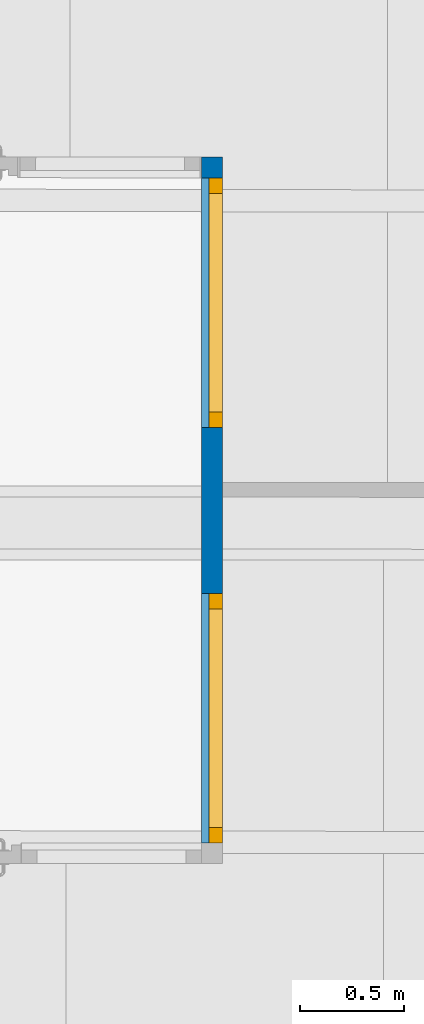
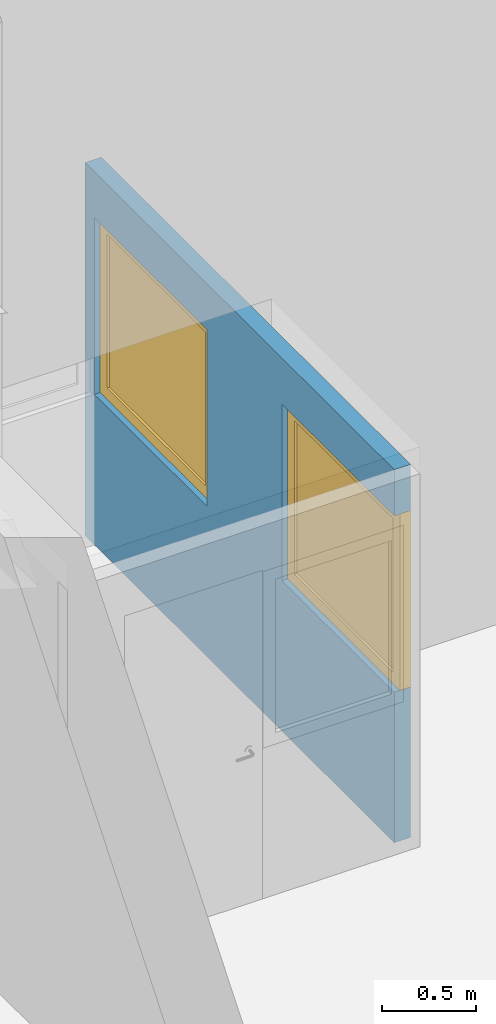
# One storey, part 99 of 301: 2 windows, 1 wall, 2 openings.
"""IFC2X3 building model written with IfcOpenShell, lengths in millimetres."""

from ifc_helpers import new_model, entity, si_unit, converted_unit, derived_unit, money_unit, direction, frame, origin_with_axes, place, context, subcontext, project, spatial, open_shell, faceted_brep, surface_model, source, transform, mapped, material, type_object, element, fill, save


model = new_model("IFC2X3")

# Units and contexts
model_context = context("Model", 3, precision=0.01, world=origin_with_axes(), true_north=direction((0.0, 1.0)))
body_context = subcontext(model_context, "Body", "Model", "MODEL_VIEW")
ifc_project = project(units=[si_unit("LENGTHUNIT", "METRE", prefix="MILLI"), si_unit("AREAUNIT", "SQUARE_METRE"), si_unit("VOLUMEUNIT", "CUBIC_METRE"), converted_unit("PLANEANGLEUNIT", "DEGREE", entity("IfcPlaneAngleMeasure", 0.0174532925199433), si_unit("PLANEANGLEUNIT", "RADIAN"), dimensions=[0, 0, 0, 0, 0, 0, 0]), money_unit("EUR"), converted_unit("TIMEUNIT", "Year", entity("IfcTimeMeasure", 31557600.0), si_unit("TIMEUNIT", "SECOND"), dimensions=[0, 0, 1, 0, 0, 0, 0]), si_unit("MASSUNIT", "GRAM", prefix="KILO"), si_unit("THERMODYNAMICTEMPERATUREUNIT", "DEGREE_CELSIUS"), si_unit("LUMINOUSINTENSITYUNIT", "LUMEN"), si_unit("ENERGYUNIT", "JOULE", prefix="MEGA"), derived_unit("THERMALCONDUCTANCEUNIT", [(si_unit("POWERUNIT", "WATT"), 1), (si_unit("LENGTHUNIT", "METRE"), -1), (si_unit("THERMODYNAMICTEMPERATUREUNIT", "KELVIN"), -1)]), derived_unit("SPECIFICHEATCAPACITYUNIT", [(si_unit("ENERGYUNIT", "JOULE"), 1), (si_unit("MASSUNIT", "GRAM", prefix="KILO"), -1), (si_unit("THERMODYNAMICTEMPERATUREUNIT", "KELVIN"), -1)]), derived_unit("MASSDENSITYUNIT", [(si_unit("MASSUNIT", "GRAM", prefix="KILO"), 1), (si_unit("VOLUMEUNIT", "CUBIC_METRE"), -1)])], contexts=[model_context])

# Site, building, storey
site_placement = place(None, frame((0.0, 0.0, 8650.0), z_axis=(0.0, 0.0, 1.0), x_axis=(1.0, 0.0, 0.0)))
site = spatial("IfcSite", under=ifc_project, at=site_placement, Name="43301:001:0844", CompositionType="ELEMENT")
building_placement = place(site_placement, origin_with_axes())
building = spatial("IfcBuilding", under=site, at=building_placement, Name="Kuressaare Ametikooli tuulikute mehaanikute õppekorpus", CompositionType="ELEMENT")
storey_placement = place(building_placement, origin_with_axes())
storey = spatial("IfcBuildingStorey", under=building, at=storey_placement, Name="1.korrus", CompositionType="ELEMENT", Elevation=0.0)

# Wall, openings, windows
ifc_material = material(Name="GENEERILINE - KONSTRUKTRIOON")
wall_type = type_object("IfcWallType", Name="GENEERILINE - KONSTRUKTRIOON 100", PredefinedType="NOTDEFINED")
wall_placement = place(storey_placement, frame((90430.75656890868, 48450.46013715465, 130.0), z_axis=(0.0, 0.0, 1.0), x_axis=(0.0, 1.0, 0.0)))
wall = element("IfcWall", 1, at=wall_placement, inside=storey, type_object=wall_type, material=ifc_material, Name="SS-XX", context=body_context, shape_type="Brep", body=[
    faceted_brep([(1300.000000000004, 99.99999999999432, 980.0000000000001), (1300.000000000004, 99.99999999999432, 2130.0), (100.0000000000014, 99.99999999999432, 2130.0), (100.0000000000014, 99.99999999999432, 2430.0), (3398.940789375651, 99.99999999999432, 2430.0), (3398.940789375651, 99.99999999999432, 0.0), (100.0000000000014, 99.99999999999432, 0.0), (100.0000000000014, 99.99999999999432, 980.0000000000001), (2098.940708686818, 99.99999999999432, 980.0000000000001), (3298.940708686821, 99.99999999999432, 980.0000000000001), (3298.940708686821, 99.99999999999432, 2130.0), (2098.940708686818, 99.99999999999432, 2130.0), (1300.000000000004, 0.0, 980.0000000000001), (1300.000000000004, 0.0, 2130.0), (100.0000000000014, 0.0, 2130.0), (100.0000000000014, 0.0, 2430.0), (3398.813754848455, 0.0, 2430.0), (3398.813754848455, 0.0, 0.0), (100.0000000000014, 0.0, 0.0), (100.0000000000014, 0.0, 980.0000000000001), (2098.940708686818, 0.0, 980.0000000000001), (3298.940708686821, 0.0, 980.0000000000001), (3298.940708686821, 0.0, 2130.0), (2098.940708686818, 0.0, 2130.0)], [[[0, 1, 2, 3, 4, 5, 6, 7], [8, 9, 10, 11]], [[0, 12, 13, 1]], [[1, 13, 14, 2]], [[3, 2, 14, 15]], [[16, 4, 3, 15]], [[17, 5, 4, 16]], [[5, 17, 18, 6]], [[18, 19, 7, 6]], [[7, 19, 12, 0]], [[20, 21, 9, 8]], [[21, 22, 10, 9]], [[22, 23, 11, 10]], [[23, 20, 8, 11]], [[13, 12, 19, 18, 17, 16, 15, 14], [20, 23, 22, 21]]]),
])
opening_1_placement = place(wall_placement, frame((700.0000000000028, 0.0, 979.9999999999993), z_axis=(0.0, 0.0, 1.0), x_axis=(1.0, 0.0, 0.0)))
opening_1 = element("IfcOpeningElement", 2, at=opening_1_placement, cuts=wall, Name="SA-XX", context=body_context, shape_type="Brep", body=[
    faceted_brep([(600.0000000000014, 100.9999999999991, 1150.0), (600.0000000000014, 100.9999999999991, 0.0), (-600.0000000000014, 100.9999999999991, 0.0), (-600.0000000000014, 100.9999999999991, 1150.0), (600.0000000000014, -1.000000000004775, 1150.0), (600.0000000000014, -1.000000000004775, 0.0), (-600.0000000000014, -1.000000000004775, 0.0), (-600.0000000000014, -1.000000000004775, 1150.0)], [[[0, 1, 2, 3]], [[4, 5, 1, 0]], [[5, 6, 2, 1]], [[6, 7, 3, 2]], [[7, 4, 0, 3]], [[6, 5, 4, 7]]]),
])
opening_2_placement = place(wall_placement, frame((2698.94070868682, 0.0, 979.9999999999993), z_axis=(0.0, 0.0, 1.0), x_axis=(1.0, 0.0, 0.0)))
opening_2 = element("IfcOpeningElement", 3, at=opening_2_placement, cuts=wall, Name="SA-XX", context=body_context, shape_type="Brep", body=[
    faceted_brep([(599.0012695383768, 100.9999999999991, 0.0), (-600.0000000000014, 100.9999999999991, 0.0), (-600.0000000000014, 100.9999999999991, 1150.0), (599.0012695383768, 100.9999999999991, 1150.0), (600.0000000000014, -1.000000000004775, 0.0), (-600.0000000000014, -1.000000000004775, 0.0), (600.0000000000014, 99.99999999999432, 0.0), (-600.0000000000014, -1.000000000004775, 1150.0), (600.0000000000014, -1.000000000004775, 1150.0), (600.0000000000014, 99.99999999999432, 1150.0)], [[[0, 1, 2, 3]], [[4, 5, 1, 0, 6]], [[5, 7, 2, 1]], [[7, 8, 9, 3, 2]], [[0, 3, 9, 6]], [[5, 4, 8, 7]], [[8, 4, 6, 9]]]),
])
window_style = type_object("IfcWindowStyle", Name="Window 27", ConstructionType="NOTDEFINED", OperationType="SINGLE_PANEL", ParameterTakesPrecedence=False, Sizeable=False)
shared_shape = source(origin_with_axes(), body_context, "Body", "SurfaceModel", [
    faceted_brep([(-525.0, -65.00000000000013, 1075.0), (-525.0, 0.0, 1075.0), (-600.0, 0.0, 1075.0), (-600.0, -65.00000000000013, 1075.0), (-525.0, -65.00000000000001, 75.0), (-525.0, 0.0, 75.00000000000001), (-600.0, 0.0, 75.00000000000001), (-600.0, -65.00000000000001, 75.0)], [[[0, 1, 2, 3]], [[4, 5, 1, 0]], [[1, 5, 6, 2]], [[3, 2, 6, 7]], [[0, 3, 7, 4]], [[7, 6, 5, 4]]]),
    faceted_brep([(525.0, -65.00000000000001, 75.0), (525.0, 0.0, 75.00000000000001), (600.0, 0.0, 75.00000000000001), (600.0, -65.00000000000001, 75.0), (525.0, -65.00000000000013, 1075.0), (525.0, 0.0, 1075.0), (600.0, 0.0, 1075.0), (600.0, -65.00000000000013, 1075.0)], [[[0, 1, 2, 3]], [[4, 5, 1, 0]], [[1, 5, 6, 2]], [[3, 2, 6, 7]], [[0, 3, 7, 4]], [[7, 6, 5, 4]]]),
    faceted_brep([(-525.0, -65.00000000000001, 75.0), (-525.0, 0.0, 75.00000000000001), (-600.0, 0.0, 75.00000000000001), (-600.0, -65.00000000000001, 75.0), (525.0, -65.00000000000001, 75.0), (525.0, 0.0, 75.00000000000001), (600.0, 0.0, 75.00000000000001), (600.0, 0.0, 0.0), (-600.0, 0.0, 0.0), (-600.0, -65.0, 0.0), (600.0, -65.0, 0.0), (600.0, -65.00000000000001, 75.0)], [[[0, 1, 2, 3]], [[4, 5, 1, 0]], [[1, 5, 6, 7, 8, 2]], [[3, 2, 8, 9]], [[0, 3, 9, 10, 11, 4]], [[11, 6, 5, 4]], [[10, 7, 6, 11]], [[9, 8, 7, 10]]]),
    faceted_brep([(525.0, -65.00000000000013, 1075.0), (525.0, 0.0, 1075.0), (600.0, 0.0, 1075.0), (600.0, -65.00000000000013, 1075.0), (-525.0, -65.00000000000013, 1075.0), (-525.0, 0.0, 1075.0), (-600.0, 0.0, 1075.0), (-600.0, 0.0, 1150.0), (600.0, 0.0, 1150.0), (600.0, -65.00000000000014, 1150.0), (-600.0, -65.00000000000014, 1150.0), (-600.0, -65.00000000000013, 1075.0)], [[[0, 1, 2, 3]], [[4, 5, 1, 0]], [[1, 5, 6, 7, 8, 2]], [[3, 2, 8, 9]], [[0, 3, 9, 10, 11, 4]], [[11, 6, 5, 4]], [[10, 7, 6, 11]], [[9, 8, 7, 10]]]),
    surface_model("IfcShellBasedSurfaceModel", [(-525.0, -35.0, 75.0), (525.0, -35.0, 75.0), (525.0, -35.00000000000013, 1075.0), (-525.0, -35.00000000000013, 1075.0)], [open_shell([[[0, 1, 2, 3]]])]),
    surface_model("IfcShellBasedSurfaceModel", [(-525.0, -15.0, 75.0), (-525.0, -15.00000000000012, 1075.0), (525.0, -15.00000000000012, 1075.0), (525.0, -15.0, 75.0)], [open_shell([[[0, 1, 2, 3]]])]),
])
window_1_placement = place(opening_2_placement, frame((-600.0000000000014, 0.0, 0.0), z_axis=(0.0, 0.0, 1.0), x_axis=(1.0, 0.0, 0.0)))
window_1 = element("IfcWindow", 4, at=window_1_placement, inside=storey, type_object=window_style, Name="SA-XX", OverallHeight=1150.0, OverallWidth=1200.0, context=body_context, shape_type="MappedRepresentation", body=[
    mapped(shared_shape, transform((600.0000000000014, 64.99999999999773, 0.0))),
])
fill(opening_2, window_1)
window_2_placement = place(opening_1_placement, frame((-600.0000000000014, 0.0, 0.0), z_axis=(0.0, 0.0, 1.0), x_axis=(1.0, 0.0, 0.0)))
window_2 = element("IfcWindow", 5, at=window_2_placement, inside=storey, type_object=window_style, Name="SA-XX", OverallHeight=1150.0, OverallWidth=1200.0, context=body_context, shape_type="MappedRepresentation", body=[
    mapped(shared_shape, transform((600.0000000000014, 64.99999999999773, 0.0))),
])
fill(opening_1, window_2)

save(model, "model.ifc")
